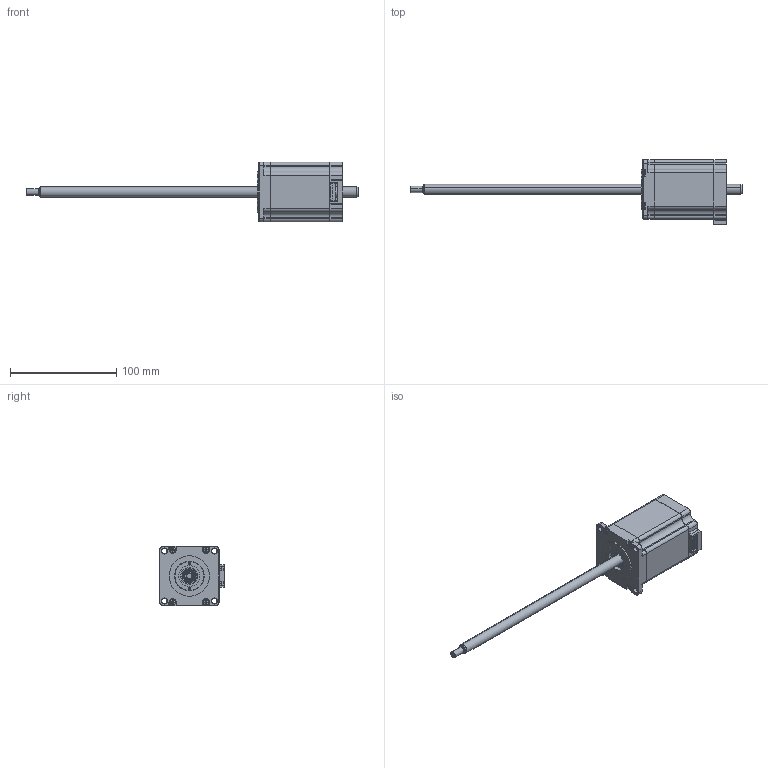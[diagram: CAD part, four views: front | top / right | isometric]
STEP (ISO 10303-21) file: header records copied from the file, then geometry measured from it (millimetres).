
FILE_DESCRIPTION (( 'STEP AP203' ), '1' );
FILE_NAME ('LN23AS-E09050-300-S-300.STEP', '2019-04-13T02:19:07', ( 'Sky123.Org' ), ( 'Sky123.Org' ), 'SwSTEP 2.0', 'SolidWorks 2014', '' );
FILE_SCHEMA (( 'CONFIG_CONTROL_DESIGN' ));
Length unit declared in the file: millimetre
Products named in the file (1): LN23AS-E09050-300-S-300
Bounding box: 313 x 61.2 x 56.2 mm (x, y, z)
Surface area: 41512.9 mm2 (no closed solid volume)
Topology: 0 solids, 17 shells, 361 faces, 1115 edges, 748 vertices
Faces by surface type: plane 182, cylinder 96, cone 71, sphere 8, torus 4
Entity records: 12828 total; most frequent: CARTESIAN_POINT 2811, DIRECTION 2121, ORIENTED_EDGE 1904, EDGE_CURVE 1115, VERTEX_POINT 748, AXIS2_PLACEMENT_3D 738, LINE 645, VECTOR 645
